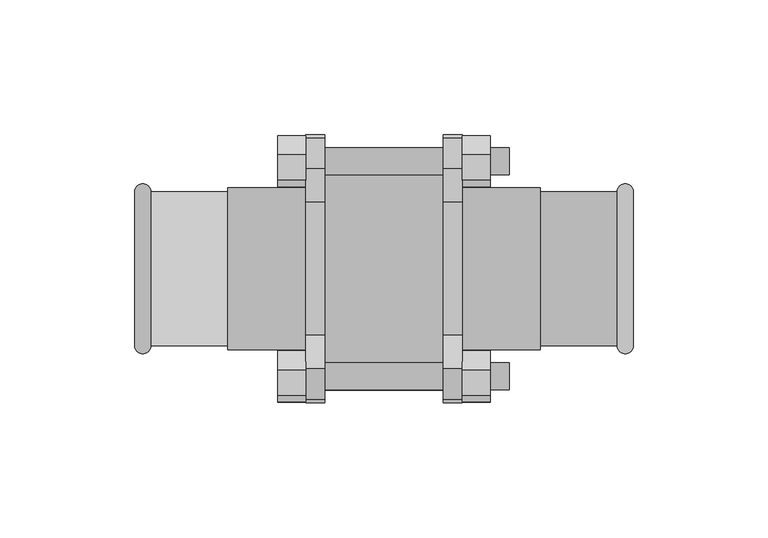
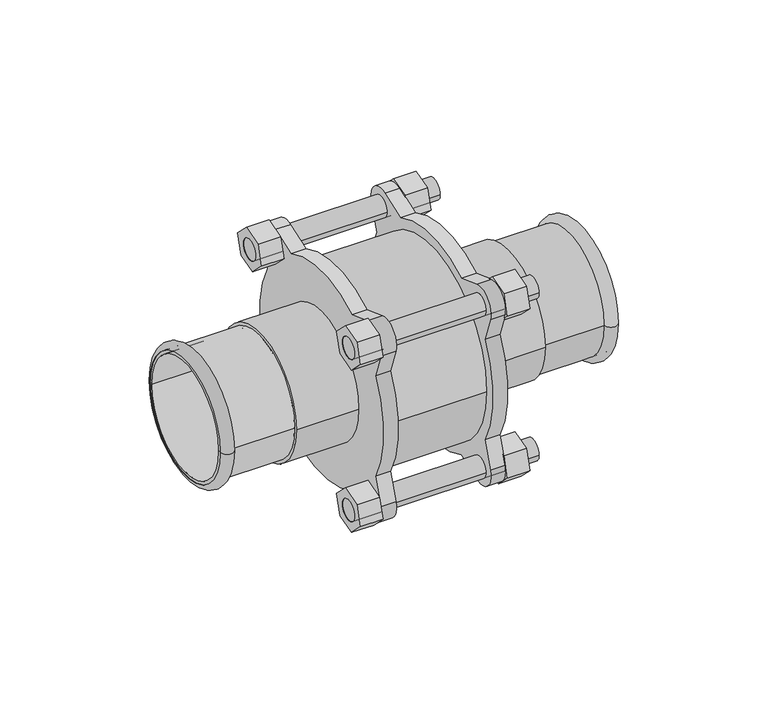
"""IFC4 building model written with IfcOpenShell, lengths in millimetres: valve geometry, NLRS_50_PIA_UN_Geberit Mapress CuNiFe terugslagventiel geflensd_PRO_333156 : DN12-100 / d15-108 - OD."""

from ifc_helpers import new_model, si_unit, point, frame, frame_2d, origin, origin_2d, place, context, project, spatial, polyline, circle_curve, ellipse_curve, trimmed, segment, composite_curve, outline, extrude, source, transform, mapped, element, save
from ifc_brep_helpers import plane_surface, cylinder_surface, revolved_surface, advanced_brep


def valve_413fc0f3(model_context):
    return source(origin(), model_context, "Body", "SolidModel", [
        advanced_brep(
        [(92.5, -28.5, 0.0), (92.5, 28.5, 0.0), (86.4987073, 28.5, 0.0), (86.4987073, -28.5, 0.0)],
        [
            (0, 1, circle_curve(frame((92.5, 0.0, 0.0), z_axis=(1.0, 0.0, 0.0), x_axis=(0.0, 1.0, 0.0)), 28.5)),
            (1, 2),
            (2, 3, circle_curve(frame((86.4987073, 0.0, 0.0), z_axis=(-1.0, 0.0, 0.0), x_axis=(0.0, 1.0, 0.0)), 28.5)),
            (3, 0),
            (1, 0, circle_curve(frame((92.5, 0.0, 0.0), z_axis=(1.0, 0.0, 0.0), x_axis=(0.0, 1.0, 0.0)), 28.5)),
            (3, 2, circle_curve(frame((86.4987073, 0.0, 0.0), z_axis=(-1.0, 0.0, 0.0), x_axis=(0.0, 1.0, 0.0)), 28.5)),
            (2, 1, circle_curve(frame((89.4993536, 28.5, 0.0), z_axis=(0.0, 0.0, -1.0), x_axis=(1.0, 0.0, 0.0)), 3.0006464)),
            (0, 3, circle_curve(frame((89.4993536, -28.5, 0.0), z_axis=(0.0, 0.0, -1.0), x_axis=(1.0, 0.0, 0.0)), 3.0006464)),
        ],
        [
            revolved_surface(polyline([(86.4987073, 28.5, 0.0), (92.5, 28.5, 0.0)]), (58.0, 0.0, 0.0), (-1.0, 0.0, 0.0)),
            revolved_surface(trimmed(ellipse_curve(frame((89.4993536, 28.5, 0.0), z_axis=(0.0, 0.0, 1.0), x_axis=(1.0, 0.0, 0.0)), 3.0006464, 3.0006464), [point((92.5, 28.5, 0.0))], [point((86.4987073, 28.5, 0.0))], True, "CARTESIAN"), (58.0, 0.0, 0.0), (-1.0, 0.0, 0.0)),
        ],
        [
            (0, [[1, 2, 3, 4]]),
            (0, [[5, -4, 6, -2]]),
            (1, [[-3, 7, -1, 8]]),
            (1, [[-6, -8, -5, -7]]),
        ],
    ),
        advanced_brep(
        [(92.5, -27.0, 0.0), (92.5, 27.0, 0.0), (57.0, 27.0, 0.0), (57.0, -27.0, 0.0), (92.5, -28.5, 0.0), (92.5, 28.5, 0.0), (58.0, -28.5, 0.0), (58.0, 28.5, 0.0)],
        [
            (0, 1, circle_curve(frame((92.5, 0.0, 0.0), z_axis=(1.0, 0.0, 0.0), x_axis=(0.0, 1.0, 0.0)), 27.0)),
            (1, 2),
            (2, 3, circle_curve(frame((57.0, 0.0, 0.0), z_axis=(-1.0, 0.0, 0.0), x_axis=(0.0, 1.0, 0.0)), 27.0)),
            (3, 0),
            (1, 0, circle_curve(frame((92.5, 0.0, 0.0), z_axis=(1.0, 0.0, 0.0), x_axis=(0.0, 1.0, 0.0)), 27.0)),
            (3, 2, circle_curve(frame((57.0, 0.0, 0.0), z_axis=(-1.0, 0.0, 0.0), x_axis=(0.0, 1.0, 0.0)), 27.0)),
            (4, 5, circle_curve(frame((92.5, 0.0, 0.0), z_axis=(1.0, 0.0, 0.0), x_axis=(0.0, 1.0, 0.0)), 28.5)),
            (5, 1),
            (0, 4),
            (5, 4, circle_curve(frame((92.5, 0.0, 0.0), z_axis=(1.0, 0.0, 0.0), x_axis=(0.0, 1.0, 0.0)), 28.5)),
            (6, 7, circle_curve(frame((58.0, 0.0, 0.0), z_axis=(1.0, 0.0, 0.0), x_axis=(0.0, 1.0, 0.0)), 28.5)),
            (7, 5),
            (4, 6),
            (7, 6, circle_curve(frame((58.0, 0.0, 0.0), z_axis=(1.0, 0.0, 0.0), x_axis=(0.0, 1.0, 0.0)), 28.5)),
            (2, 7),
            (6, 3),
        ],
        [
            revolved_surface(polyline([(57.0, 27.0, 0.0), (92.5, 27.0, 0.0)]), (58.0, 0.0, 0.0), (-1.0, 0.0, 0.0)),
            plane_surface(frame((92.5, 0.0, 0.0), z_axis=(1.0, 0.0, 0.0), x_axis=(0.0, 1.0, 0.0))),
            cylinder_surface(frame((58.0, 0.0, 0.0), z_axis=(-1.0, 0.0, 0.0), x_axis=(0.0, 1.0, 0.0)), 28.5),
            revolved_surface(polyline([(58.0, 28.5, 0.0), (57.0, 27.0, 0.0)]), (58.0, 0.0, 0.0), (-1.0, 0.0, 0.0)),
        ],
        [
            (0, [[1, 2, 3, 4]]),
            (0, [[5, -4, 6, -2]]),
            (1, [[7, 8, -1, 9]]),
            (1, [[10, -9, -5, -8]]),
            (2, [[11, 12, -7, 13]]),
            (2, [[14, -13, -10, -12]]),
            (3, [[-3, 15, -11, 16]]),
            (3, [[-6, -16, -14, -15]]),
        ],
    ),
        advanced_brep(
        [(-92.5, 28.5, 0.0), (-92.5, -28.5, 0.0), (-86.4987073, -28.5, 0.0), (-86.4987073, 28.5, 0.0)],
        [
            (0, 1, circle_curve(frame((-92.5, 0.0, 0.0), z_axis=(-1.0, 0.0, 0.0), x_axis=(0.0, -1.0, 0.0)), 28.5)),
            (1, 2),
            (2, 3, circle_curve(frame((-86.4987073, 0.0, 0.0), z_axis=(1.0, 0.0, 0.0), x_axis=(0.0, -1.0, 0.0)), 28.5)),
            (3, 0),
            (1, 0, circle_curve(frame((-92.5, 0.0, 0.0), z_axis=(-1.0, 0.0, 0.0), x_axis=(0.0, -1.0, 0.0)), 28.5)),
            (3, 2, circle_curve(frame((-86.4987073, 0.0, 0.0), z_axis=(1.0, 0.0, 0.0), x_axis=(0.0, -1.0, 0.0)), 28.5)),
            (2, 1, circle_curve(frame((-89.4993536, -28.5, 0.0), z_axis=(0.0, 0.0, -1.0), x_axis=(-1.0, 0.0, 0.0)), 3.0006464)),
            (0, 3, circle_curve(frame((-89.4993536, 28.5, 0.0), z_axis=(0.0, 0.0, -1.0), x_axis=(-1.0, 0.0, 0.0)), 3.0006464)),
        ],
        [
            revolved_surface(polyline([(-86.4987073, -28.5, 0.0), (-92.5, -28.5, 0.0)]), (-58.0, 0.0, 0.0), (1.0, 0.0, 0.0)),
            revolved_surface(trimmed(ellipse_curve(frame((-89.4993536, -28.5, 0.0), z_axis=(0.0, 0.0, 1.0), x_axis=(-1.0, 0.0, 0.0)), 3.0006464, 3.0006464), [point((-92.5, -28.5, 0.0))], [point((-86.4987073, -28.5, 0.0))], True, "CARTESIAN"), (-58.0, 0.0, 0.0), (1.0, 0.0, 0.0)),
        ],
        [
            (0, [[1, 2, 3, 4]]),
            (0, [[5, -4, 6, -2]]),
            (1, [[-3, 7, -1, 8]]),
            (1, [[-6, -8, -5, -7]]),
        ],
    ),
        advanced_brep(
        [(-92.5, 27.0, 0.0), (-92.5, -27.0, 0.0), (-57.0, -27.0, 0.0), (-57.0, 27.0, 0.0), (-92.5, 28.5, 0.0), (-92.5, -28.5, 0.0), (-58.0, 28.5, 0.0), (-58.0, -28.5, 0.0)],
        [
            (0, 1, circle_curve(frame((-92.5, 0.0, 0.0), z_axis=(-1.0, 0.0, 0.0), x_axis=(0.0, -1.0, 0.0)), 27.0)),
            (1, 2),
            (2, 3, circle_curve(frame((-57.0, 0.0, 0.0), z_axis=(1.0, 0.0, 0.0), x_axis=(0.0, -1.0, 0.0)), 27.0)),
            (3, 0),
            (1, 0, circle_curve(frame((-92.5, 0.0, 0.0), z_axis=(-1.0, 0.0, 0.0), x_axis=(0.0, -1.0, 0.0)), 27.0)),
            (3, 2, circle_curve(frame((-57.0, 0.0, 0.0), z_axis=(1.0, 0.0, 0.0), x_axis=(0.0, -1.0, 0.0)), 27.0)),
            (4, 5, circle_curve(frame((-92.5, 0.0, 0.0), z_axis=(-1.0, 0.0, 0.0), x_axis=(0.0, -1.0, 0.0)), 28.5)),
            (5, 1),
            (0, 4),
            (5, 4, circle_curve(frame((-92.5, 0.0, 0.0), z_axis=(-1.0, 0.0, 0.0), x_axis=(0.0, -1.0, 0.0)), 28.5)),
            (6, 7, circle_curve(frame((-58.0, 0.0, 0.0), z_axis=(-1.0, 0.0, 0.0), x_axis=(0.0, -1.0, 0.0)), 28.5)),
            (7, 5),
            (4, 6),
            (7, 6, circle_curve(frame((-58.0, 0.0, 0.0), z_axis=(-1.0, 0.0, 0.0), x_axis=(0.0, -1.0, 0.0)), 28.5)),
            (2, 7),
            (6, 3),
        ],
        [
            revolved_surface(polyline([(-57.0, -27.0, 0.0), (-92.5, -27.0, 0.0)]), (-58.0, 0.0, 0.0), (1.0, 0.0, 0.0)),
            plane_surface(frame((-92.5, 0.0, 0.0), z_axis=(-1.0, 0.0, 0.0), x_axis=(0.0, -1.0, 0.0))),
            cylinder_surface(frame((-58.0, 0.0, 0.0), z_axis=(1.0, 0.0, 0.0), x_axis=(0.0, -1.0, 0.0)), 28.5),
            revolved_surface(polyline([(-58.0, -28.5, 0.0), (-57.0, -27.0, 0.0)]), (-58.0, 0.0, 0.0), (1.0, 0.0, 0.0)),
        ],
        [
            (0, [[1, 2, 3, 4]]),
            (0, [[5, -4, 6, -2]]),
            (1, [[7, 8, -1, 9]]),
            (1, [[10, -9, -5, -8]]),
            (2, [[11, 12, -7, 13]]),
            (2, [[14, -13, -10, -12]]),
            (3, [[-3, 15, -11, 16]]),
            (3, [[-6, -16, -14, -15]]),
        ],
    ),
        extrude(outline(composite_curve([segment(trimmed(circle_curve(origin_2d(), 45.0), [point((-45.0, 0.0))], [point((45.0, 0.0))], False, "CARTESIAN"), True, "CONTINUOUS"), segment(trimmed(circle_curve(origin_2d(), 45.0), [point((45.0, 0.0))], [point((-45.0, 0.0))], False, "CARTESIAN"), True, "CONTINUOUS")], self_intersect=False)), frame((-22.0, 0.0, 0.0), z_axis=(1.0, 0.0, 0.0), x_axis=(0.0, 1.0, 0.0)), (0.0, 0.0, 1.0), 44.0),
        extrude(outline(composite_curve([segment(trimmed(circle_curve(origin_2d(), 30.0), [point((-30.0, 0.0))], [point((30.0, 0.0))], False, "CARTESIAN"), True, "CONTINUOUS"), segment(trimmed(circle_curve(origin_2d(), 30.0), [point((30.0, 0.0))], [point((-30.0, 0.0))], False, "CARTESIAN"), True, "CONTINUOUS")], self_intersect=False)), frame((29.0, 0.0, 0.0), z_axis=(1.0, 0.0, 0.0), x_axis=(0.0, 1.0, 0.0)), (0.0, 0.0, 1.0), 29.0),
        extrude(outline(composite_curve([segment(trimmed(circle_curve(origin_2d(), 30.0), [point((-30.0, 0.0))], [point((30.0, 0.0))], False, "CARTESIAN"), True, "CONTINUOUS"), segment(trimmed(circle_curve(origin_2d(), 30.0), [point((30.0, 0.0))], [point((-30.0, 0.0))], False, "CARTESIAN"), True, "CONTINUOUS")], self_intersect=False)), frame((-58.0, 0.0, 0.0), z_axis=(1.0, 0.0, 0.0), x_axis=(0.0, 1.0, 0.0)), (0.0, 0.0, 1.0), 29.0),
        extrude(outline(polyline([(46.8917541, 33.0113122), (37.411236, 30.471015), (30.471015, 37.411236), (33.0113122, 46.8917541), (42.4918303, 49.4320512), (49.4320512, 42.4918303), (46.8917541, 33.0113122)]), holes=[composite_curve([segment(trimmed(circle_curve(frame_2d((39.9515331, 39.9515331)), 5.0), [point((44.9515331, 39.9515331))], [point((34.9515331, 39.9515331))], True, "CARTESIAN"), True, "CONTINUOUS"), segment(trimmed(circle_curve(frame_2d((39.9515331, 39.9515331)), 5.0), [point((34.9515331, 39.9515331))], [point((44.9515331, 39.9515331))], True, "CARTESIAN"), True, "CONTINUOUS")], self_intersect=False)]), frame((29.0, 0.0, 0.0), z_axis=(1.0, 0.0, 0.0), x_axis=(0.0, 1.0, 0.0)), (0.0, 0.0, 1.0), 10.5),
        extrude(outline(polyline([(-33.0113122, 33.0113122), (-42.4918303, 30.471015), (-49.4320512, 37.411236), (-46.8917541, 46.8917541), (-37.411236, 49.4320512), (-30.471015, 42.4918303), (-33.0113122, 33.0113122)]), holes=[composite_curve([segment(trimmed(circle_curve(frame_2d((-39.9515331, 39.9515331)), 5.0), [point((-34.9515331, 39.9515331))], [point((-44.9515331, 39.9515331))], True, "CARTESIAN"), True, "CONTINUOUS"), segment(trimmed(circle_curve(frame_2d((-39.9515331, 39.9515331)), 5.0), [point((-44.9515331, 39.9515331))], [point((-34.9515331, 39.9515331))], True, "CARTESIAN"), True, "CONTINUOUS")], self_intersect=False)]), frame((29.0, 0.0, 0.0), z_axis=(1.0, 0.0, 0.0), x_axis=(0.0, 1.0, 0.0)), (0.0, 0.0, 1.0), 10.5),
        extrude(outline(polyline([(-33.0113122, -46.8917541), (-42.4918303, -49.4320512), (-49.4320512, -42.4918303), (-46.8917541, -33.0113122), (-37.411236, -30.471015), (-30.471015, -37.411236), (-33.0113122, -46.8917541)]), holes=[composite_curve([segment(trimmed(circle_curve(frame_2d((-39.9515331, -39.9515331)), 5.0), [point((-34.9515331, -39.9515331))], [point((-44.9515331, -39.9515331))], True, "CARTESIAN"), True, "CONTINUOUS"), segment(trimmed(circle_curve(frame_2d((-39.9515331, -39.9515331)), 5.0), [point((-44.9515331, -39.9515331))], [point((-34.9515331, -39.9515331))], True, "CARTESIAN"), True, "CONTINUOUS")], self_intersect=False)]), frame((29.0, 0.0, 0.0), z_axis=(1.0, 0.0, 0.0), x_axis=(0.0, 1.0, 0.0)), (0.0, 0.0, 1.0), 10.5),
        extrude(outline(polyline([(46.8917541, -46.8917541), (37.411236, -49.4320512), (30.471015, -42.4918303), (33.0113122, -33.0113122), (42.4918303, -30.471015), (49.4320512, -37.411236), (46.8917541, -46.8917541)]), holes=[composite_curve([segment(trimmed(circle_curve(frame_2d((39.9515331, -39.9515331)), 5.0), [point((44.9515331, -39.9515331))], [point((34.9515331, -39.9515331))], True, "CARTESIAN"), True, "CONTINUOUS"), segment(trimmed(circle_curve(frame_2d((39.9515331, -39.9515331)), 5.0), [point((34.9515331, -39.9515331))], [point((44.9515331, -39.9515331))], True, "CARTESIAN"), True, "CONTINUOUS")], self_intersect=False)]), frame((29.0, 0.0, 0.0), z_axis=(1.0, 0.0, 0.0), x_axis=(0.0, 1.0, 0.0)), (0.0, 0.0, 1.0), 10.5),
        extrude(outline(polyline([(46.8917541, 33.0113122), (37.411236, 30.471015), (30.471015, 37.411236), (33.0113122, 46.8917541), (42.4918303, 49.4320512), (49.4320512, 42.4918303), (46.8917541, 33.0113122)]), holes=[composite_curve([segment(trimmed(circle_curve(frame_2d((39.9515331, 39.9515331)), 5.0), [point((44.9515331, 39.9515331))], [point((34.9515331, 39.9515331))], True, "CARTESIAN"), True, "CONTINUOUS"), segment(trimmed(circle_curve(frame_2d((39.9515331, 39.9515331)), 5.0), [point((34.9515331, 39.9515331))], [point((44.9515331, 39.9515331))], True, "CARTESIAN"), True, "CONTINUOUS")], self_intersect=False)]), frame((-39.5, 0.0, 0.0), z_axis=(1.0, 0.0, 0.0), x_axis=(0.0, 1.0, 0.0)), (0.0, 0.0, 1.0), 10.5),
        extrude(outline(polyline([(-33.0113122, 33.0113122), (-42.4918303, 30.471015), (-49.4320512, 37.411236), (-46.8917541, 46.8917541), (-37.411236, 49.4320512), (-30.471015, 42.4918303), (-33.0113122, 33.0113122)]), holes=[composite_curve([segment(trimmed(circle_curve(frame_2d((-39.9515331, 39.9515331)), 5.0), [point((-34.9515331, 39.9515331))], [point((-44.9515331, 39.9515331))], True, "CARTESIAN"), True, "CONTINUOUS"), segment(trimmed(circle_curve(frame_2d((-39.9515331, 39.9515331)), 5.0), [point((-44.9515331, 39.9515331))], [point((-34.9515331, 39.9515331))], True, "CARTESIAN"), True, "CONTINUOUS")], self_intersect=False)]), frame((-39.5, 0.0, 0.0), z_axis=(1.0, 0.0, 0.0), x_axis=(0.0, 1.0, 0.0)), (0.0, 0.0, 1.0), 10.5),
        extrude(outline(polyline([(-33.0113122, -46.8917541), (-42.4918303, -49.4320512), (-49.4320512, -42.4918303), (-46.8917541, -33.0113122), (-37.411236, -30.471015), (-30.471015, -37.411236), (-33.0113122, -46.8917541)]), holes=[composite_curve([segment(trimmed(circle_curve(frame_2d((-39.9515331, -39.9515331)), 5.0), [point((-34.9515331, -39.9515331))], [point((-44.9515331, -39.9515331))], True, "CARTESIAN"), True, "CONTINUOUS"), segment(trimmed(circle_curve(frame_2d((-39.9515331, -39.9515331)), 5.0), [point((-44.9515331, -39.9515331))], [point((-34.9515331, -39.9515331))], True, "CARTESIAN"), True, "CONTINUOUS")], self_intersect=False)]), frame((-39.5, 0.0, 0.0), z_axis=(1.0, 0.0, 0.0), x_axis=(0.0, 1.0, 0.0)), (0.0, 0.0, 1.0), 10.5),
        extrude(outline(polyline([(46.8917541, -46.8917541), (37.411236, -49.4320512), (30.471015, -42.4918303), (33.0113122, -33.0113122), (42.4918303, -30.471015), (49.4320512, -37.411236), (46.8917541, -46.8917541)]), holes=[composite_curve([segment(trimmed(circle_curve(frame_2d((39.9515331, -39.9515331)), 5.0), [point((44.9515331, -39.9515331))], [point((34.9515331, -39.9515331))], True, "CARTESIAN"), True, "CONTINUOUS"), segment(trimmed(circle_curve(frame_2d((39.9515331, -39.9515331)), 5.0), [point((34.9515331, -39.9515331))], [point((44.9515331, -39.9515331))], True, "CARTESIAN"), True, "CONTINUOUS")], self_intersect=False)]), frame((-39.5, 0.0, 0.0), z_axis=(1.0, 0.0, 0.0), x_axis=(0.0, 1.0, 0.0)), (0.0, 0.0, 1.0), 10.5),
        extrude(outline(composite_curve([segment(polyline([(-43.4565382, 24.7291181), (-47.9389204, 37.0443619)]), True, "CONTINUOUS"), segment(trimmed(circle_curve(frame_2d((-39.9515331, 39.9515331)), 8.5), [point((-47.9389204, 37.0443619))], [point((-37.0443619, 47.9389204))], False, "CARTESIAN"), True, "CONTINUOUS"), segment(polyline([(-37.0443619, 47.9389204), (-24.7291181, 43.4565382)]), True, "CONTINUOUS"), segment(trimmed(circle_curve(origin_2d(), 50.0), [point((-24.7291181, 43.4565382))], [point((24.7291181, 43.4565382))], False, "CARTESIAN"), True, "CONTINUOUS"), segment(polyline([(24.7291181, 43.4565382), (37.0443619, 47.9389204)]), True, "CONTINUOUS"), segment(trimmed(circle_curve(frame_2d((39.9515331, 39.9515331)), 8.5), [point((37.0443619, 47.9389204))], [point((47.9389204, 37.0443619))], False, "CARTESIAN"), True, "CONTINUOUS"), segment(polyline([(47.9389204, 37.0443619), (43.4565382, 24.7291181)]), True, "CONTINUOUS"), segment(trimmed(circle_curve(origin_2d(), 50.0), [point((43.4565382, 24.7291181))], [point((43.4565382, -24.7291181))], False, "CARTESIAN"), True, "CONTINUOUS"), segment(polyline([(43.4565382, -24.7291181), (47.9389204, -37.0443619)]), True, "CONTINUOUS"), segment(trimmed(circle_curve(frame_2d((39.9515331, -39.9515331)), 8.5), [point((47.9389204, -37.0443619))], [point((37.0443619, -47.9389204))], False, "CARTESIAN"), True, "CONTINUOUS"), segment(polyline([(37.0443619, -47.9389204), (24.7291181, -43.4565382)]), True, "CONTINUOUS"), segment(trimmed(circle_curve(origin_2d(), 50.0), [point((24.7291181, -43.4565382))], [point((-24.7291181, -43.4565382))], False, "CARTESIAN"), True, "CONTINUOUS"), segment(polyline([(-24.7291181, -43.4565382), (-37.0443619, -47.9389204)]), True, "CONTINUOUS"), segment(trimmed(circle_curve(frame_2d((-39.9515331, -39.9515331)), 8.5), [point((-37.0443619, -47.9389204))], [point((-47.9389204, -37.0443619))], False, "CARTESIAN"), True, "CONTINUOUS"), segment(polyline([(-47.9389204, -37.0443619), (-43.4565382, -24.7291181)]), True, "CONTINUOUS"), segment(trimmed(circle_curve(origin_2d(), 50.0), [point((-43.4565382, -24.7291181))], [point((-43.4565382, 24.7291181))], False, "CARTESIAN"), True, "CONTINUOUS")], self_intersect=False)), frame((22.0, 0.0, 0.0), z_axis=(1.0, 0.0, 0.0), x_axis=(0.0, 1.0, 0.0)), (0.0, 0.0, 1.0), 7.0),
        extrude(outline(composite_curve([segment(polyline([(-43.4565382, 24.7291181), (-47.9389204, 37.0443619)]), True, "CONTINUOUS"), segment(trimmed(circle_curve(frame_2d((-39.9515331, 39.9515331)), 8.5), [point((-47.9389204, 37.0443619))], [point((-37.0443619, 47.9389204))], False, "CARTESIAN"), True, "CONTINUOUS"), segment(polyline([(-37.0443619, 47.9389204), (-24.7291181, 43.4565382)]), True, "CONTINUOUS"), segment(trimmed(circle_curve(origin_2d(), 50.0), [point((-24.7291181, 43.4565382))], [point((24.7291181, 43.4565382))], False, "CARTESIAN"), True, "CONTINUOUS"), segment(polyline([(24.7291181, 43.4565382), (37.0443619, 47.9389204)]), True, "CONTINUOUS"), segment(trimmed(circle_curve(frame_2d((39.9515331, 39.9515331)), 8.5), [point((37.0443619, 47.9389204))], [point((47.9389204, 37.0443619))], False, "CARTESIAN"), True, "CONTINUOUS"), segment(polyline([(47.9389204, 37.0443619), (43.4565382, 24.7291181)]), True, "CONTINUOUS"), segment(trimmed(circle_curve(origin_2d(), 50.0), [point((43.4565382, 24.7291181))], [point((43.4565382, -24.7291181))], False, "CARTESIAN"), True, "CONTINUOUS"), segment(polyline([(43.4565382, -24.7291181), (47.9389204, -37.0443619)]), True, "CONTINUOUS"), segment(trimmed(circle_curve(frame_2d((39.9515331, -39.9515331)), 8.5), [point((47.9389204, -37.0443619))], [point((37.0443619, -47.9389204))], False, "CARTESIAN"), True, "CONTINUOUS"), segment(polyline([(37.0443619, -47.9389204), (24.7291181, -43.4565382)]), True, "CONTINUOUS"), segment(trimmed(circle_curve(origin_2d(), 50.0), [point((24.7291181, -43.4565382))], [point((-24.7291181, -43.4565382))], False, "CARTESIAN"), True, "CONTINUOUS"), segment(polyline([(-24.7291181, -43.4565382), (-37.0443619, -47.9389204)]), True, "CONTINUOUS"), segment(trimmed(circle_curve(frame_2d((-39.9515331, -39.9515331)), 8.5), [point((-37.0443619, -47.9389204))], [point((-47.9389204, -37.0443619))], False, "CARTESIAN"), True, "CONTINUOUS"), segment(polyline([(-47.9389204, -37.0443619), (-43.4565382, -24.7291181)]), True, "CONTINUOUS"), segment(trimmed(circle_curve(origin_2d(), 50.0), [point((-43.4565382, -24.7291181))], [point((-43.4565382, 24.7291181))], False, "CARTESIAN"), True, "CONTINUOUS")], self_intersect=False)), frame((-29.0, 0.0, 0.0), z_axis=(1.0, 0.0, 0.0), x_axis=(0.0, 1.0, 0.0)), (0.0, 0.0, 1.0), 7.0),
        extrude(outline(composite_curve([segment(trimmed(circle_curve(frame_2d((-39.9515331, 39.9515331)), 5.0), [point((-44.9515331, 39.9515331))], [point((-34.9515331, 39.9515331))], False, "CARTESIAN"), True, "CONTINUOUS"), segment(trimmed(circle_curve(frame_2d((-39.9515331, 39.9515331)), 5.0), [point((-34.9515331, 39.9515331))], [point((-44.9515331, 39.9515331))], False, "CARTESIAN"), True, "CONTINUOUS")], self_intersect=False)), frame((-39.5, 0.0, 0.0), z_axis=(1.0, 0.0, 0.0), x_axis=(0.0, 1.0, 0.0)), (0.0, 0.0, 1.0), 86.0),
        extrude(outline(composite_curve([segment(trimmed(circle_curve(frame_2d((39.9515331, 39.9515331)), 5.0), [point((34.9515331, 39.9515331))], [point((44.9515331, 39.9515331))], False, "CARTESIAN"), True, "CONTINUOUS"), segment(trimmed(circle_curve(frame_2d((39.9515331, 39.9515331)), 5.0), [point((44.9515331, 39.9515331))], [point((34.9515331, 39.9515331))], False, "CARTESIAN"), True, "CONTINUOUS")], self_intersect=False)), frame((-39.5, 0.0, 0.0), z_axis=(1.0, 0.0, 0.0), x_axis=(0.0, 1.0, 0.0)), (0.0, 0.0, 1.0), 86.0),
        extrude(outline(composite_curve([segment(trimmed(circle_curve(frame_2d((-39.9515331, -39.9515331)), 5.0), [point((-44.9515331, -39.9515331))], [point((-34.9515331, -39.9515331))], False, "CARTESIAN"), True, "CONTINUOUS"), segment(trimmed(circle_curve(frame_2d((-39.9515331, -39.9515331)), 5.0), [point((-34.9515331, -39.9515331))], [point((-44.9515331, -39.9515331))], False, "CARTESIAN"), True, "CONTINUOUS")], self_intersect=False)), frame((-39.5, 0.0, 0.0), z_axis=(1.0, 0.0, 0.0), x_axis=(0.0, 1.0, 0.0)), (0.0, 0.0, 1.0), 86.0),
        extrude(outline(composite_curve([segment(trimmed(circle_curve(frame_2d((39.9515331, -39.9515331)), 5.0), [point((34.9515331, -39.9515331))], [point((44.9515331, -39.9515331))], False, "CARTESIAN"), True, "CONTINUOUS"), segment(trimmed(circle_curve(frame_2d((39.9515331, -39.9515331)), 5.0), [point((44.9515331, -39.9515331))], [point((34.9515331, -39.9515331))], False, "CARTESIAN"), True, "CONTINUOUS")], self_intersect=False)), frame((-39.5, 0.0, 0.0), z_axis=(1.0, 0.0, 0.0), x_axis=(0.0, 1.0, 0.0)), (0.0, 0.0, 1.0), 86.0),
    ])


if __name__ == "__main__":
    model = new_model("IFC4")
    model_context = context("Model", 3, world=origin())
    ifc_project = project(units=[si_unit("LENGTHUNIT", "METRE", prefix="MILLI")], contexts=[model_context])
    site = spatial("IfcSite", under=ifc_project)
    building = spatial("IfcBuilding", under=site)
    placement = place(None, origin())
    valve_shape = valve_413fc0f3(model_context)
    element("IfcValve", 1, ObjectType="NLRS_50_PIA_UN_Geberit Mapress CuNiFe terugslagventiel geflensd_PRO_333156 : DN12-100 / d15-108 - OD", at=placement, inside=building, context=model_context, shape_type="MappedRepresentation", body=[
        mapped(valve_shape, transform((0.0, 0.0, 0.0), x_axis=(1.0, 0.0, 0.0), y_axis=(0.0, 1.0, 0.0), z_axis=(0.0, 0.0, 1.0))),
    ])
    save(model, "model.ifc")
